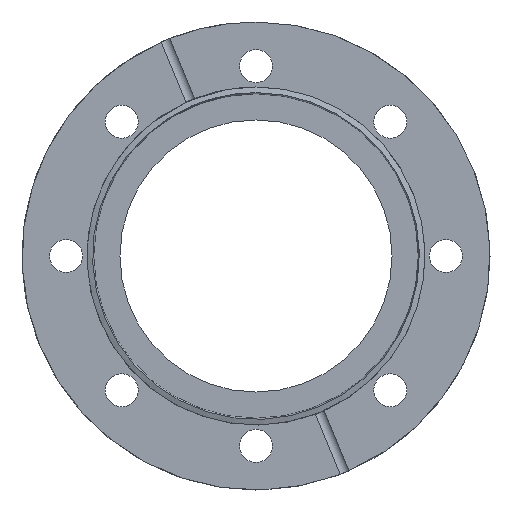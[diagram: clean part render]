
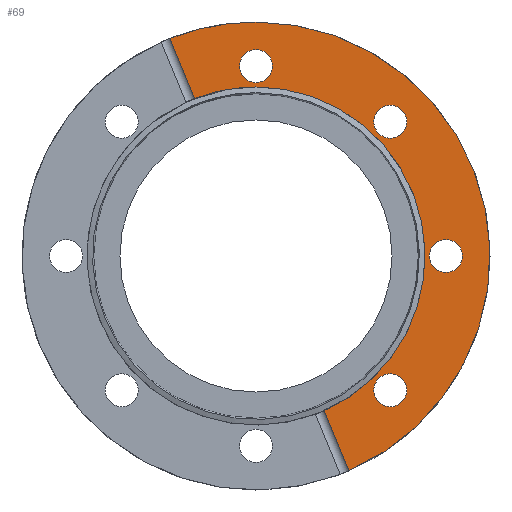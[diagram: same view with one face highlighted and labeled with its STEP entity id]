
A CAD part, left-side view. The second image highlights one B-rep face of the part: STEP entity #69.
In plain terms, the highlighted planar face has unit normal (-1, 0, 0).
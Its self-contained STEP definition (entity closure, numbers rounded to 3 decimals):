
#69 = ADVANCED_FACE( '', ( #162, #163, #164, #165, #166 ), #167, .F. );
#162 = FACE_BOUND( '', #265, .T. );
#163 = FACE_BOUND( '', #266, .T. );
#164 = FACE_BOUND( '', #267, .T. );
#165 = FACE_BOUND( '', #268, .T. );
#166 = FACE_OUTER_BOUND( '', #269, .T. );
#167 = PLANE( '', #270 );
#265 = EDGE_LOOP( '', ( #400 ) );
#266 = EDGE_LOOP( '', ( #401 ) );
#267 = EDGE_LOOP( '', ( #402 ) );
#268 = EDGE_LOOP( '', ( #403 ) );
#269 = EDGE_LOOP( '', ( #404, #405, #406, #407 ) );
#270 = AXIS2_PLACEMENT_3D( '', #408, #409, #410 );
#400 = ORIENTED_EDGE( '', *, *, #493, .F. );
#401 = ORIENTED_EDGE( '', *, *, #506, .F. );
#402 = ORIENTED_EDGE( '', *, *, #466, .F. );
#403 = ORIENTED_EDGE( '', *, *, #507, .F. );
#404 = ORIENTED_EDGE( '', *, *, #468, .T. );
#405 = ORIENTED_EDGE( '', *, *, #495, .T. );
#406 = ORIENTED_EDGE( '', *, *, #479, .F. );
#407 = ORIENTED_EDGE( '', *, *, #508, .T. );
#408 = CARTESIAN_POINT( '', ( -17.5, 0., 56.75 ) );
#409 = DIRECTION( '', ( 1., 0., 0. ) );
#410 = DIRECTION( '', ( 0., 0., -1. ) );
#466 = EDGE_CURVE( '', #527, #527, #528, .T. );
#468 = EDGE_CURVE( '', #530, #531, #532, .T. );
#479 = EDGE_CURVE( '', #550, #551, #552, .T. );
#493 = EDGE_CURVE( '', #573, #573, #574, .T. );
#495 = EDGE_CURVE( '', #531, #551, #576, .F. );
#506 = EDGE_CURVE( '', #593, #593, #594, .T. );
#507 = EDGE_CURVE( '', #595, #595, #596, .T. );
#508 = EDGE_CURVE( '', #550, #530, #597, .F. );
#527 = VERTEX_POINT( '', #618 );
#528 = CIRCLE( '', #619, 4. );
#530 = VERTEX_POINT( '', #621 );
#531 = VERTEX_POINT( '', #622 );
#532 = CIRCLE( '', #623, 56.75 );
#550 = VERTEX_POINT( '', #667 );
#551 = VERTEX_POINT( '', #668 );
#552 = CIRCLE( '', #669, 41. );
#573 = VERTEX_POINT( '', #718 );
#574 = CIRCLE( '', #719, 4. );
#576 = LINE( '', #721, #722 );
#593 = VERTEX_POINT( '', #739 );
#594 = CIRCLE( '', #740, 4. );
#595 = VERTEX_POINT( '', #741 );
#596 = CIRCLE( '', #742, 4. );
#597 = LINE( '', #743, #744 );
#618 = CARTESIAN_POINT( '', ( -17.5, -46.05, -4. ) );
#619 = AXIS2_PLACEMENT_3D( '', #766, #767, #768 );
#621 = CARTESIAN_POINT( '', ( -17.5, -22.517, -52.092 ) );
#622 = CARTESIAN_POINT( '', ( -17.5, 20.913, 52.756 ) );
#623 = AXIS2_PLACEMENT_3D( '', #769, #770, #771 );
#667 = CARTESIAN_POINT( '', ( -17.5, -16.488, -37.538 ) );
#668 = CARTESIAN_POINT( '', ( -17.5, 14.885, 38.203 ) );
#669 = AXIS2_PLACEMENT_3D( '', #790, #791, #792 );
#718 = CARTESIAN_POINT( '', ( -17.5, -4., 46.05 ) );
#719 = AXIS2_PLACEMENT_3D( '', #813, #814, #815 );
#721 = CARTESIAN_POINT( '', ( -17.5, -22.519, -52.098 ) );
#722 = VECTOR( '', #816, 1000. );
#739 = CARTESIAN_POINT( '', ( -17.5, -35.391, 29.734 ) );
#740 = AXIS2_PLACEMENT_3D( '', #835, #836, #837 );
#741 = CARTESIAN_POINT( '', ( -17.5, -29.734, -35.391 ) );
#742 = AXIS2_PLACEMENT_3D( '', #838, #839, #840 );
#743 = CARTESIAN_POINT( '', ( -17.5, -22.519, -52.098 ) );
#744 = VECTOR( '', #841, 1000. );
#766 = CARTESIAN_POINT( '', ( -17.5, -46.05, 0. ) );
#767 = DIRECTION( '', ( -1., 0., 0. ) );
#768 = DIRECTION( '', ( 0., 0., -1. ) );
#769 = CARTESIAN_POINT( '', ( -17.5, 0., 0. ) );
#770 = DIRECTION( '', ( -1., 0., 0. ) );
#771 = DIRECTION( '', ( 0., 0., 1. ) );
#790 = CARTESIAN_POINT( '', ( -17.5, 0., 0. ) );
#791 = DIRECTION( '', ( -1., 0., 0. ) );
#792 = DIRECTION( '', ( 0., 0., 1. ) );
#813 = CARTESIAN_POINT( '', ( -17.5, 0., 46.05 ) );
#814 = DIRECTION( '', ( -1., 0., 0. ) );
#815 = DIRECTION( '', ( 0., -1., 0. ) );
#816 = DIRECTION( '', ( 0., 0.383, 0.924 ) );
#835 = CARTESIAN_POINT( '', ( -17.5, -32.562, 32.562 ) );
#836 = DIRECTION( '', ( -1., 0., 0. ) );
#837 = DIRECTION( '', ( 0., -0.707, -0.707 ) );
#838 = CARTESIAN_POINT( '', ( -17.5, -32.562, -32.562 ) );
#839 = DIRECTION( '', ( -1., 0., 0. ) );
#840 = DIRECTION( '', ( 0., 0.707, -0.707 ) );
#841 = DIRECTION( '', ( 0., 0.383, 0.924 ) );
